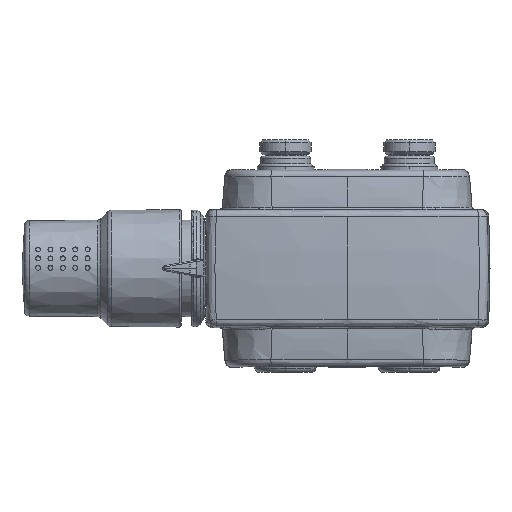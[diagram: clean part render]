
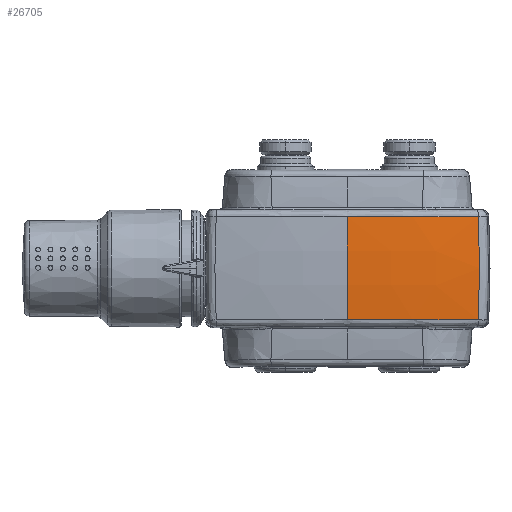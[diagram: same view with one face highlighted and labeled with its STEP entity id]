
A CAD part, top view. The second image highlights one B-rep face of the part: STEP entity #26705.
In plain terms, the highlighted toroidal (fillet/blend) face has major radius 200 mm and minor radius 300 mm.
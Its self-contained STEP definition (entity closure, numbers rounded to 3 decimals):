
#2161 = CARTESIAN_POINT ( 'NONE',  ( 53.464, 1.353, 23.133 ) ) ;
#2632 = CARTESIAN_POINT ( 'NONE',  ( 53.249, 14.005, 22.847 ) ) ;
#2745 = EDGE_CURVE ( 'NONE', #13041, #17874, #33538, .T. ) ;
#3449 = VERTEX_POINT ( 'NONE', #16226 ) ;
#3498 = DIRECTION ( 'NONE',  ( 0., -1., 0. ) ) ;
#3635 = CARTESIAN_POINT ( 'NONE',  ( 0., -20.839, 25.275 ) ) ;
#3877 = CARTESIAN_POINT ( 'NONE',  ( 5.901, -20.839, 25.275 ) ) ;
#4902 = DIRECTION ( 'NONE',  ( 1., 0., 0. ) ) ;
#5594 = CARTESIAN_POINT ( 'NONE',  ( 0., 20.839, 25.275 ) ) ;
#5785 = EDGE_CURVE ( 'NONE', #45558, #13041, #29153, .T. ) ;
#6001 = CARTESIAN_POINT ( 'NONE',  ( 53.249, -14.008, 22.847 ) ) ;
#6535 = CARTESIAN_POINT ( 'NONE',  ( 43.945, -20.856, 23.357 ) ) ;
#6640 = B_SPLINE_CURVE_WITH_KNOTS ( 'NONE', 3,
 ( #14204, #47324, #6535, #29330, #40137, #25024, #3877, #3635 ),
 .UNSPECIFIED., .F., .F.,
 ( 4, 2, 2, 4 ),
 ( 0., 0.256, 0.667, 1. ),
 .UNSPECIFIED. ) ;
#7469 = AXIS2_PLACEMENT_3D ( 'NONE', #27227, #4902, #41870 ) ;
#7886 = ORIENTED_EDGE ( 'NONE', *, *, #5785, .F. ) ;
#9790 = EDGE_CURVE ( 'NONE', #45558, #3449, #28954, .T. ) ;
#9909 = CARTESIAN_POINT ( 'NONE',  ( 52.955, 20.864, 22.457 ) ) ;
#10555 = ORIENTED_EDGE ( 'NONE', *, *, #2745, .F. ) ;
#11548 = AXIS2_PLACEMENT_3D ( 'NONE', #28953, #3498, #14548 ) ;
#13041 = VERTEX_POINT ( 'NONE', #19745 ) ;
#13421 = CARTESIAN_POINT ( 'NONE',  ( 53.445, 4.064, 23.108 ) ) ;
#14204 = CARTESIAN_POINT ( 'NONE',  ( 52.955, -20.864, 22.457 ) ) ;
#14548 = DIRECTION ( 'NONE',  ( 0., 0., -1. ) ) ;
#15834 = CARTESIAN_POINT ( 'NONE',  ( 52.955, -20.864, 22.457 ) ) ;
#16226 = CARTESIAN_POINT ( 'NONE',  ( 0., -20.839, 25.275 ) ) ;
#16815 = CARTESIAN_POINT ( 'NONE',  ( 53.445, -4.069, 23.108 ) ) ;
#17271 = CARTESIAN_POINT ( 'NONE',  ( 53.387, 8.402, 23.031 ) ) ;
#17508 = CARTESIAN_POINT ( 'NONE',  ( 53.464, -1.358, 23.133 ) ) ;
#17874 = VERTEX_POINT ( 'NONE', #15834 ) ;
#18617 = FACE_OUTER_BOUND ( 'NONE', #31474, .T. ) ;
#19745 = CARTESIAN_POINT ( 'NONE',  ( 52.955, 20.864, 22.457 ) ) ;
#20398 = CARTESIAN_POINT ( 'NONE',  ( 53.334, 10.57, 22.96 ) ) ;
#20642 = CARTESIAN_POINT ( 'NONE',  ( 53.458, 2.708, 23.125 ) ) ;
#21350 = CARTESIAN_POINT ( 'NONE',  ( 53.387, -8.406, 23.031 ) ) ;
#21423 = CARTESIAN_POINT ( 'NONE',  ( 11.438, 20.84, 25.177 ) ) ;
#24248 = CARTESIAN_POINT ( 'NONE',  ( 53.458, -2.713, 23.125 ) ) ;
#24959 = CARTESIAN_POINT ( 'NONE',  ( 53.123, 17.437, 22.68 ) ) ;
#25024 = CARTESIAN_POINT ( 'NONE',  ( 11.801, -20.84, 25.17 ) ) ;
#26705 = ADVANCED_FACE ( 'NONE', ( #18617 ), #32262, .T. ) ;
#27227 = CARTESIAN_POINT ( 'NONE',  ( 0., 0., -274. ) ) ;
#28622 = CARTESIAN_POINT ( 'NONE',  ( 41.074, 20.853, 23.725 ) ) ;
#28953 = CARTESIAN_POINT ( 'NONE',  ( 0., 0., -474. ) ) ;
#28954 = CIRCLE ( 'NONE', #7469, 300. ) ;
#29153 = B_SPLINE_CURVE_WITH_KNOTS ( 'NONE', 3,
 ( #5594, #34869, #21423, #35585, #28622, #9909 ),
 .UNSPECIFIED., .F., .F.,
 ( 4, 2, 4 ),
 ( 0., 0.323, 1. ),
 .UNSPECIFIED. ) ;
#29330 = CARTESIAN_POINT ( 'NONE',  ( 32.199, -20.848, 24.288 ) ) ;
#30435 = EDGE_CURVE ( 'NONE', #17874, #3449, #6640, .T. ) ;
#31459 = CARTESIAN_POINT ( 'NONE',  ( 53.424, -6.237, 23.08 ) ) ;
#31474 = EDGE_LOOP ( 'NONE', ( #42555, #47310, #10555, #7886 ) ) ;
#31691 = CARTESIAN_POINT ( 'NONE',  ( 52.955, -20.864, 22.457 ) ) ;
#32262 = TOROIDAL_SURFACE ( 'NONE', #11548, 200., 300. ) ;
#33538 = B_SPLINE_CURVE_WITH_KNOTS ( 'NONE', 3,
 ( #45856, #24959, #2632, #20398, #17271, #35034, #13421, #20642, #2161, #42976, #17508, #24248, #16815, #31459, #21350, #38874, #6001, #35283, #31691 ),
 .UNSPECIFIED., .F., .F.,
 ( 4, 3, 3, 3, 3, 3, 4 ),
 ( -2.043, -1.642, -1.39, -1.232, -1.074, -0.821, -0.421 ),
 .UNSPECIFIED. ) ;
#34869 = CARTESIAN_POINT ( 'NONE',  ( 5.719, 20.839, 25.275 ) ) ;
#35034 = CARTESIAN_POINT ( 'NONE',  ( 53.424, 6.233, 23.08 ) ) ;
#35283 = CARTESIAN_POINT ( 'NONE',  ( 53.123, -17.439, 22.679 ) ) ;
#35585 = CARTESIAN_POINT ( 'NONE',  ( 29.124, 20.845, 24.568 ) ) ;
#38874 = CARTESIAN_POINT ( 'NONE',  ( 53.334, -10.574, 22.96 ) ) ;
#39832 = CARTESIAN_POINT ( 'NONE',  ( 0., 20.839, 25.275 ) ) ;
#40137 = CARTESIAN_POINT ( 'NONE',  ( 24.952, -20.844, 24.704 ) ) ;
#41870 = DIRECTION ( 'NONE',  ( 0., 0., 1. ) ) ;
#42555 = ORIENTED_EDGE ( 'NONE', *, *, #9790, .T. ) ;
#42976 = CARTESIAN_POINT ( 'NONE',  ( 53.464, -0.003, 23.133 ) ) ;
#45558 = VERTEX_POINT ( 'NONE', #39832 ) ;
#45856 = CARTESIAN_POINT ( 'NONE',  ( 52.955, 20.864, 22.457 ) ) ;
#47310 = ORIENTED_EDGE ( 'NONE', *, *, #30435, .F. ) ;
#47324 = CARTESIAN_POINT ( 'NONE',  ( 48.455, -20.86, 22.937 ) ) ;
